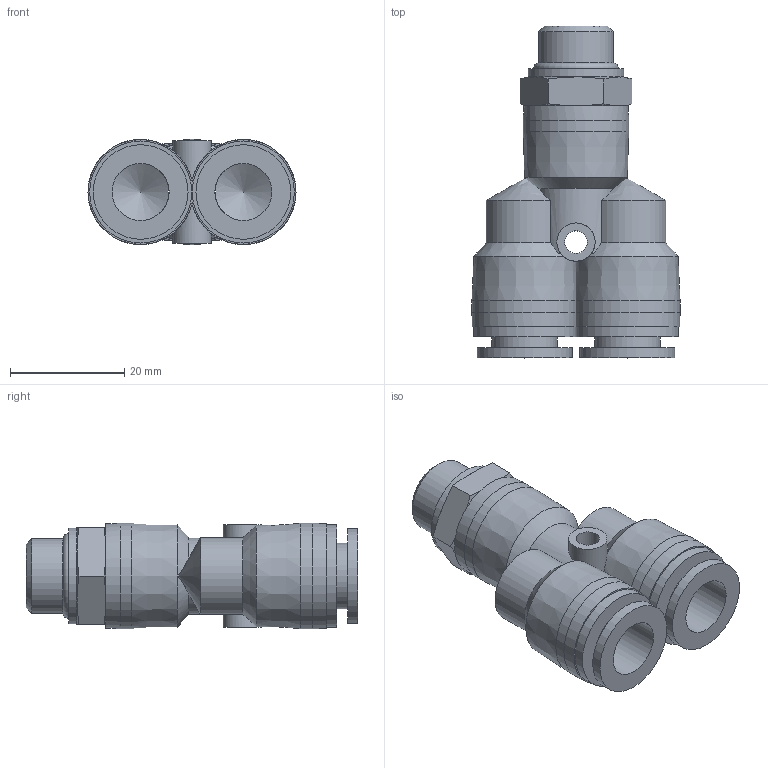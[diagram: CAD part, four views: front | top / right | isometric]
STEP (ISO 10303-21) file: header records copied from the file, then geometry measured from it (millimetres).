
FILE_DESCRIPTION(/* description */ (''),/* implementation_level */ '2;1');
FILE_NAME(/* name */ 'S:\_Tecnico\ArchivioUT\_Disegni3D ingombri\DISEGNI 3D per ingombri\RP\RP 74\RP741410.stp',/* time_stamp */ '2019-09-05T17:14:18+02:00',/* author */ ('ufficiotecnico3'),/* organization */ (''),/* preprocessor_version */ 'ST-DEVELOPER v18',/* originating_system */ 'Autodesk Inventor 2020',/* authorisation */ '');
FILE_SCHEMA (('AUTOMOTIVE_DESIGN { 1 0 10303 214 3 1 1 }'));
Length unit declared in the file: millimetre
Products named in the file (1): RP741410
Bounding box: 36.5 x 58.2 x 18.5 mm (x, y, z)
Volume: 12579.9 mm3; surface area: 8877 mm2
Topology: 1 solids, 2 shells, 71 faces, 206 edges, 139 vertices
Faces by surface type: cylinder 24, plane 23, cone 22, torus 2
Full cylindrical faces by diameter (mm): 4 x1, 6.7 x1, 8.4 x1, 10 x2, 11.3 x1, 11.5 x2, 13.157 x1, 16.6 x2, 16.8 x1, 17.9 x2, 18.5 x1
Entity records: 2752 total; most frequent: CARTESIAN_POINT 851, ORIENTED_EDGE 404, DIRECTION 386, EDGE_CURVE 202, AXIS2_PLACEMENT_3D 169, VERTEX_POINT 139, CIRCLE 93, EDGE_LOOP 85
